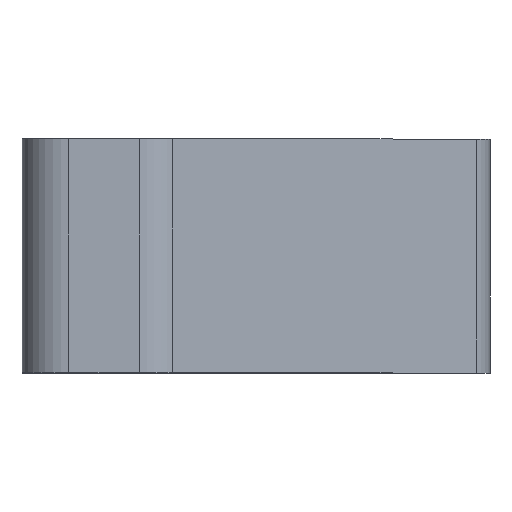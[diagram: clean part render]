
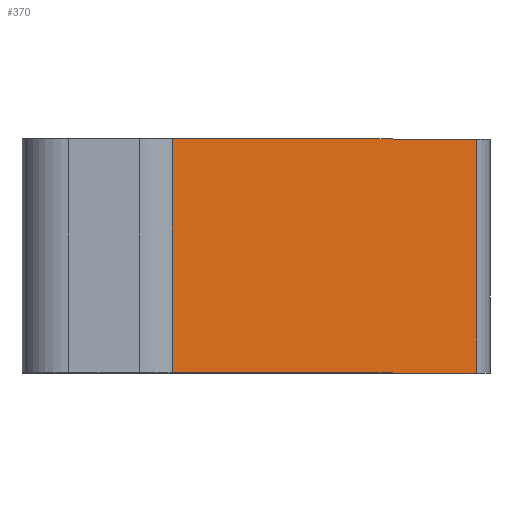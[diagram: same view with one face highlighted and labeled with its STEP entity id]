
A CAD part, top view. The second image highlights one B-rep face of the part: STEP entity #370.
In plain terms, the highlighted planar face has unit normal (0.707, 0, 0.707).
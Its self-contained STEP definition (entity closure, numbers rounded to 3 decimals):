
#370=ADVANCED_FACE('',(#733),#734,.T.);
#733=FACE_OUTER_BOUND('',#1090,.T.);
#734=PLANE('',#1091);
#1090=EDGE_LOOP('',(#2053,#2054,#2055,#2056));
#1091=AXIS2_PLACEMENT_3D('',#2057,#2058,#2059);
#2053=ORIENTED_EDGE('',*,*,#2627,.T.);
#2054=ORIENTED_EDGE('',*,*,#2628,.F.);
#2055=ORIENTED_EDGE('',*,*,#2488,.F.);
#2056=ORIENTED_EDGE('',*,*,#2625,.T.);
#2057=CARTESIAN_POINT('',(5.84,10.0,5.84));
#2058=DIRECTION('',(0.707,0.0,0.707));
#2059=DIRECTION('',(-0.707,0.0,0.707));
#2488=EDGE_CURVE('',#3065,#3067,#3068,.T.);
#2625=EDGE_CURVE('',#3065,#3271,#3273,.T.);
#2627=EDGE_CURVE('',#3271,#3275,#3276,.T.);
#2628=EDGE_CURVE('',#3067,#3275,#3277,.T.);
#3065=VERTEX_POINT('',#3854);
#3067=VERTEX_POINT('',#3856);
#3068=LINE('',#3857,#3858);
#3271=VERTEX_POINT('',#4130);
#3273=LINE('',#4132,#4133);
#3275=VERTEX_POINT('',#4135);
#3276=LINE('',#4136,#4137);
#3277=LINE('',#4138,#4139);
#3854=CARTESIAN_POINT('',(-7.148,10.0,18.828));
#3856=CARTESIAN_POINT('',(18.828,10.0,-7.148));
#3857=CARTESIAN_POINT('',(-7.148,10.0,18.828));
#3858=VECTOR('',#4517,1.0);
#4130=CARTESIAN_POINT('',(-7.148,-10.0,18.828));
#4132=CARTESIAN_POINT('',(-7.148,10.0,18.828));
#4133=VECTOR('',#4686,1.0);
#4135=CARTESIAN_POINT('',(18.828,-10.0,-7.148));
#4136=CARTESIAN_POINT('',(-7.148,-10.0,18.828));
#4137=VECTOR('',#4687,1.0);
#4138=CARTESIAN_POINT('',(18.828,10.0,-7.148));
#4139=VECTOR('',#4688,1.0);
#4517=DIRECTION('',(0.707,0.0,-0.707));
#4686=DIRECTION('',(0.0,-1.0,0.0));
#4687=DIRECTION('',(0.707,0.0,-0.707));
#4688=DIRECTION('',(0.0,-1.0,0.0));
